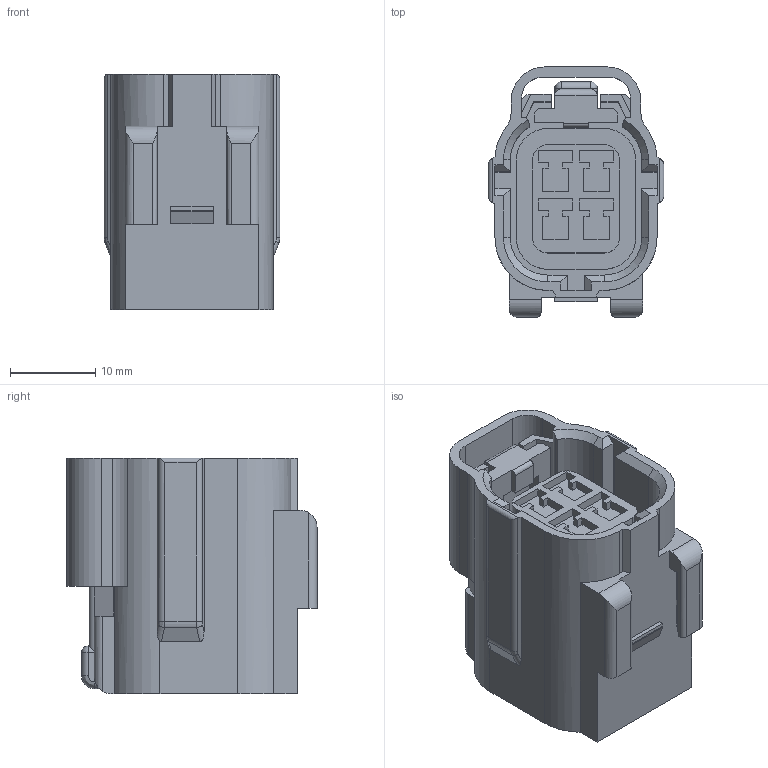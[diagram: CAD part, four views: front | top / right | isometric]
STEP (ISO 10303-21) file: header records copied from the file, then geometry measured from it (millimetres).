
FILE_DESCRIPTION((''),'2;1');
FILE_NAME('C-174257-2','2010-11-18T',('workeradm'),('Tyco Electronics Ltd.'),'PRO/ENGINEER BY PARAMETRIC TECHNOLOGY CORPORATION, 2009300','PRO/ENGINEER BY PARAMETRIC TECHNOLOGY CORPORATION, 2009300','');
FILE_SCHEMA(('AUTOMOTIVE_DESIGN { 1 0 10303 214 1 1 1 1 }'));
Length unit declared in the file: millimetre
Products named in the file (1): C-174257-2
Bounding box: 20.6 x 29.3 x 27.6 mm (x, y, z)
Volume: 8623.1 mm3; surface area: 6698.3 mm2
Topology: 1 solids, 1 shells, 307 faces, 848 edges, 552 vertices
Faces by surface type: plane 211, cylinder 82, bspline 8, cone 4, sphere 2
Entity records: 10263 total; most frequent: CARTESIAN_POINT 2142, ORIENTED_EDGE 1696, DIRECTION 1546, EDGE_CURVE 848, VECTOR 664, LINE 664, VERTEX_POINT 552, AXIS2_PLACEMENT_3D 441
